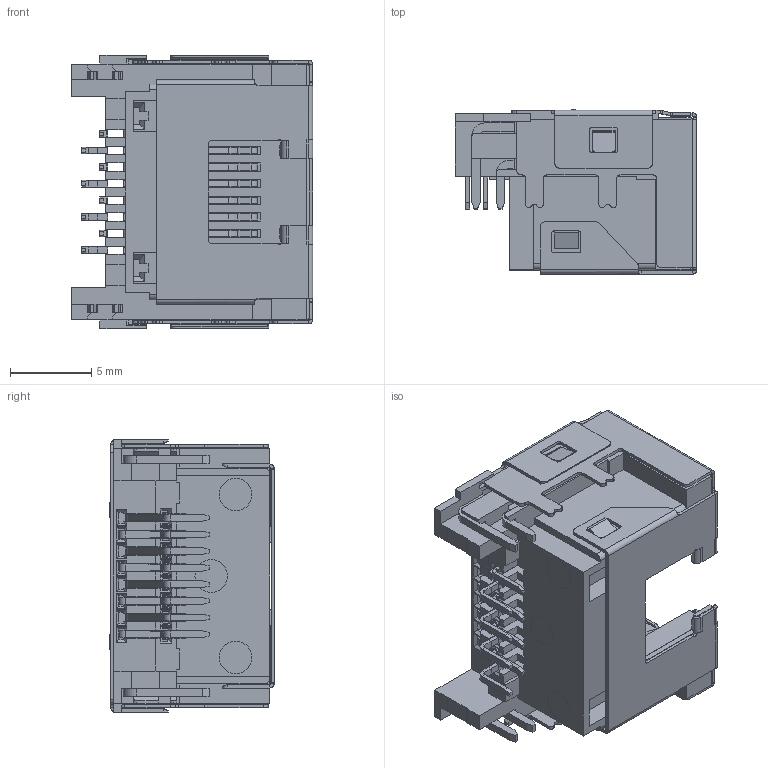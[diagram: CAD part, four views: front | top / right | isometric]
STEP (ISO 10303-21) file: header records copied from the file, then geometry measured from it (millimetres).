
FILE_DESCRIPTION((''),'2;1');
FILE_NAME('4_10001_ASM','2023-05-25T15:05:18',('Administrator'),(''),'CREO PARAMETRIC BY PTC INC, 2019010','CREO PARAMETRIC BY PTC INC, 2019010','');
FILE_SCHEMA(('CONFIG_CONTROL_DESIGN'));
Length unit declared in the file: millimetre
Products named in the file (10): MSBR-9; MSBR-8; MSBR-7; MSBR-6; MSBR-5; MSBR-4; MSBR-3; MSBR-2; MSBR-1; 4_10001_ASM
Assembly tree (9 placements, depth 2):
  4_10001_ASM
    MSBR-9
    MSBR-8
    MSBR-7
    MSBR-6
    MSBR-5
    MSBR-4
    MSBR-3
    MSBR-2
    MSBR-1
Bounding box: 14.8 x 10.1 x 16.8 mm (x, y, z)
Volume: 606.2 mm3; surface area: 2695.1 mm2
Topology: 9 solids, 9 shells, 1515 faces, 4140 edges, 2588 vertices
Faces by surface type: plane 1218, cylinder 283, bspline 14
Entity records: 47700 total; most frequent: CARTESIAN_POINT 8993, ORIENTED_EDGE 8280, DIRECTION 7666, EDGE_CURVE 4140, VECTOR 3510, LINE 3510, VERTEX_POINT 2588, AXIS2_PLACEMENT_3D 2078
